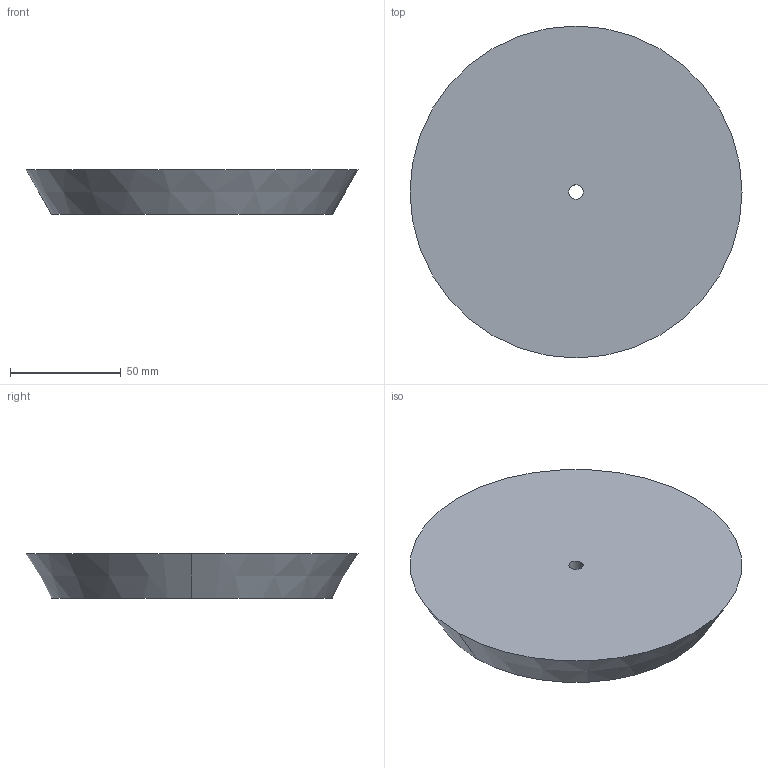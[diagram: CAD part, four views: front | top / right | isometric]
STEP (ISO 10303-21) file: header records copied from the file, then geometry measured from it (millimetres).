
FILE_DESCRIPTION(('CATIA V5 STEP Exchange'),'2;1');
FILE_NAME('C:\Users\andres.garcia\OneDrive - IQS\ASIGNATURAS\DAO\Controles\2223\c0\c1-MEYA_Merce-tapon.stp','2023-02-03T08:22:05+00:00',('none'),('none'),'CATIA Version 5-6 Release 2013 SP6','CATIA V5 STEP AP203','none');
FILE_SCHEMA(('CONFIG_CONTROL_DESIGN'));
Length unit declared in the file: millimetre
Products named in the file (1): c1-MEYA_Merce-tapon
Bounding box: 150 x 150 x 20 mm (x, y, z)
Volume: 301144.1 mm3; surface area: 40707.5 mm2
Topology: 1 solids, 1 shells, 6 faces, 12 edges, 8 vertices
Faces by surface type: cylinder 2, plane 2, cone 2
Entity records: 196 total; most frequent: CARTESIAN_POINT 26, ORIENTED_EDGE 24, DIRECTION 22, AXIS2_PLACEMENT_3D 14, EDGE_CURVE 12, CIRCLE 8, EDGE_LOOP 8, VERTEX_POINT 8
